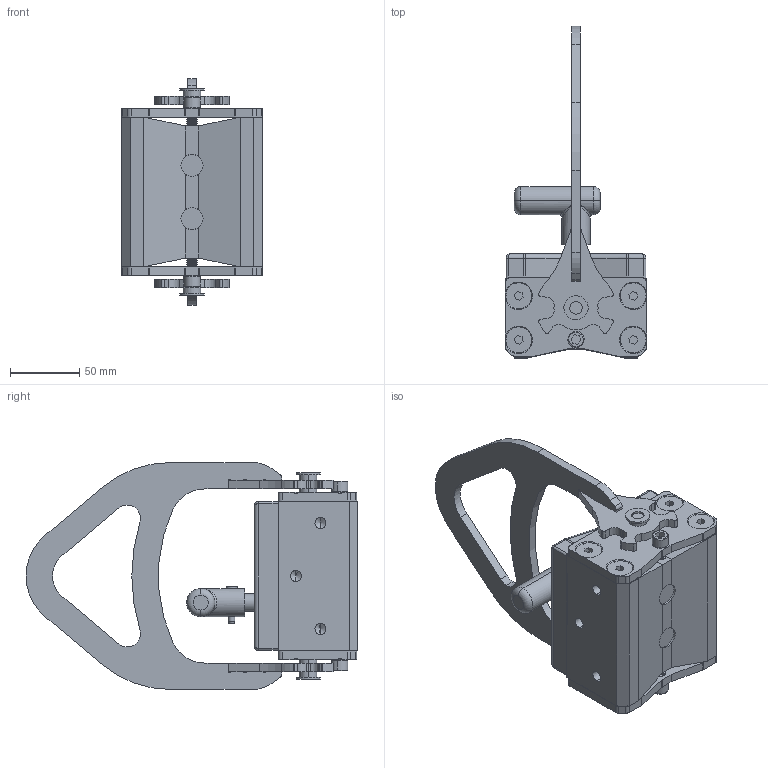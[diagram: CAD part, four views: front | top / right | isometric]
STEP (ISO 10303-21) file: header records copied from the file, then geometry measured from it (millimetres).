
FILE_DESCRIPTION (( 'STEP AP203' ), '1' );
FILE_NAME ('DL0334.STEP', '2018-08-22T13:29:39', ( '' ), ( '' ), 'SwSTEP 2.0', 'SolidWorks 2015', '' );
FILE_SCHEMA (( 'CONFIG_CONTROL_DESIGN' ));
Length unit declared in the file: inch
Products named in the file (1): DL0334
Bounding box: 101.6 x 239.08 x 163.51 mm (x, y, z)
Volume: 817148.6 mm3; surface area: 195302.6 mm2
Topology: 32 solids, 32 shells, 1760 faces, 3943 edges, 2222 vertices
Faces by surface type: cylinder 679, cone 676, plane 323, torus 52, bspline 16, sphere 14
Entity records: 48954 total; most frequent: CARTESIAN_POINT 9403, DIRECTION 9023, ORIENTED_EDGE 7724, EDGE_CURVE 3862, AXIS2_PLACEMENT_3D 3510, VERTEX_POINT 2215, VECTOR 2003, LINE 2003
